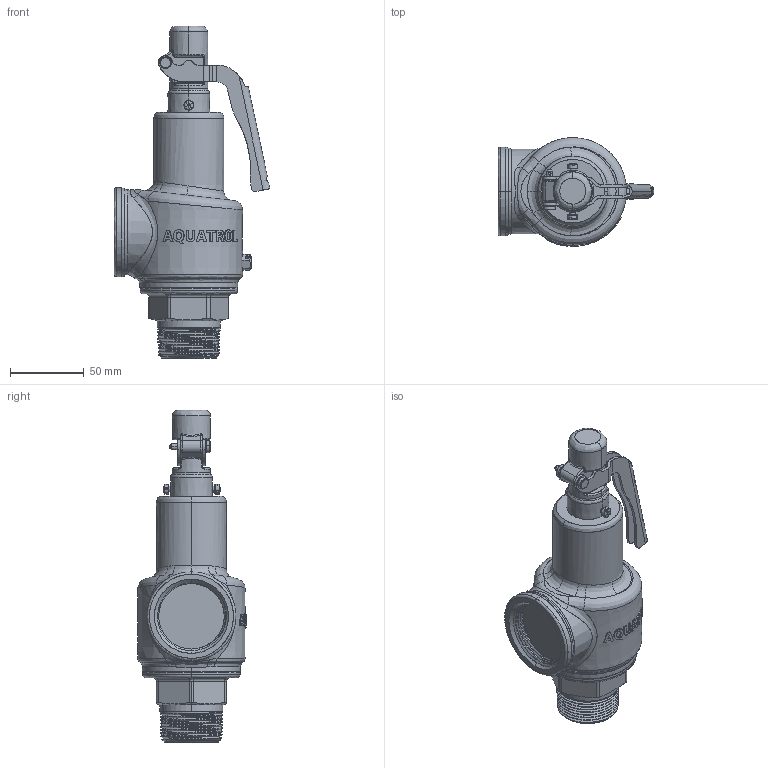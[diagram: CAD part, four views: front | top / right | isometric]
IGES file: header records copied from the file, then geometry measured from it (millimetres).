
Start section: SolidWorks IGES file using analytic representation for surfaces
Global section: file name: C:\Design\Design\Aquatrol\Customer 3D Files\Series 88 Customer Files\Series 88 1250 x 1500\Customer\Series 88 1250 x 1500.IGS; native system: SolidWorks 2015; preprocessor: SolidWorks 2015; author: Karl; date: 141208.101150; units: inch
Bounding box: 105.98 x 73.9 x 225.74 mm (x, y, z)
Surface area: 56980.9 mm2 (no closed solid volume)
Topology: 0 solids, 0 shells, 428 faces, 8193 edges, 8191 vertices
Faces by surface type: bspline 251, revolution 177
